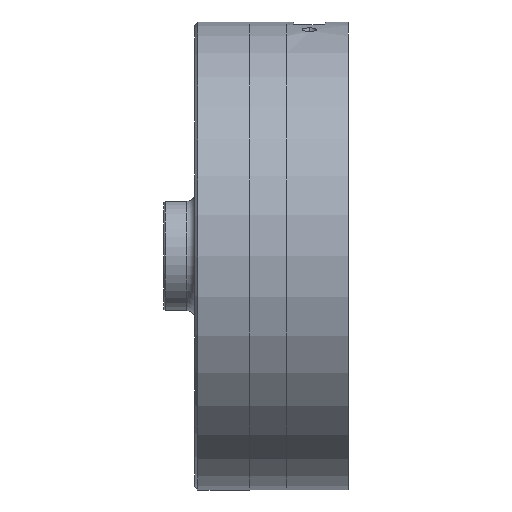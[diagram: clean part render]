
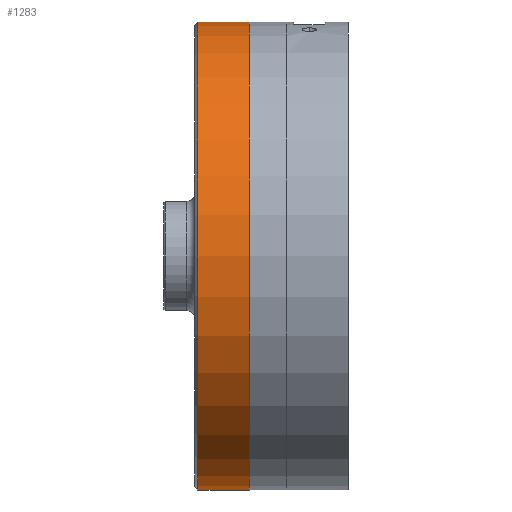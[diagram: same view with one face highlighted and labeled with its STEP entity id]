
A CAD part, left-side view. The second image highlights one B-rep face of the part: STEP entity #1283.
In plain terms, the highlighted cylindrical face has radius 38.1 mm (diameter 76.2 mm), a partial arc.
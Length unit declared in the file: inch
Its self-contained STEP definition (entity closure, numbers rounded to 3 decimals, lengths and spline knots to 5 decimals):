
#1147 = VERTEX_POINT ( 'NONE', #4810 ) ;
#1149 = EDGE_CURVE ( 'NONE', #1170, #1147, #4808, .T. ) ;
#1170 = VERTEX_POINT ( 'NONE', #4897 ) ;
#1171 = VERTEX_POINT ( 'NONE', #4896 ) ;
#1173 = EDGE_CURVE ( 'NONE', #1171, #1174, #4895, .T. ) ;
#1174 = VERTEX_POINT ( 'NONE', #4891 ) ;
#1260 = ORIENTED_EDGE ( 'NONE', *, *, #1173, .F. ) ;
#1261 = ORIENTED_EDGE ( 'NONE', *, *, #1262, .T. ) ;
#1262 = EDGE_CURVE ( 'NONE', #1171, #1170, #5231, .T. ) ;
#1263 = ORIENTED_EDGE ( 'NONE', *, *, #1149, .T. ) ;
#1264 = ORIENTED_EDGE ( 'NONE', *, *, #1282, .T. ) ;
#1282 = EDGE_CURVE ( 'NONE', #1147, #1174, #5320, .T. ) ;
#1283 = ADVANCED_FACE ( 'NONE', ( #5314 ), #5296, .T. ) ;
#1284 = EDGE_LOOP ( 'NONE', ( #1260, #1261, #1263, #1264 ) ) ;
#4805 = DIRECTION ( 'NONE',  ( 0., 1., 0. ) ) ;
#4806 = VECTOR ( 'NONE', #4805, 39.37008 ) ;
#4807 = CARTESIAN_POINT ( 'NONE',  ( -0.74144, 1.38927, 2.19037 ) ) ;
#4808 = LINE ( 'NONE', #4807, #4806 ) ;
#4810 = CARTESIAN_POINT ( 'NONE',  ( -0.74144, 0.32539, 2.19037 ) ) ;
#4891 = CARTESIAN_POINT ( 'NONE',  ( -0.74144, 0.32539, -0.80963 ) ) ;
#4892 = DIRECTION ( 'NONE',  ( 0., 1., 0. ) ) ;
#4893 = VECTOR ( 'NONE', #4892, 39.37008 ) ;
#4894 = CARTESIAN_POINT ( 'NONE',  ( -0.74144, 1.38927, -0.80963 ) ) ;
#4895 = LINE ( 'NONE', #4894, #4893 ) ;
#4896 = CARTESIAN_POINT ( 'NONE',  ( -0.74144, -0.00461, -0.80963 ) ) ;
#4897 = CARTESIAN_POINT ( 'NONE',  ( -0.74144, -0.00461, 2.19037 ) ) ;
#5227 = DIRECTION ( 'NONE',  ( 0., 0., 1. ) ) ;
#5228 = DIRECTION ( 'NONE',  ( 0., 1., 0. ) ) ;
#5229 = CARTESIAN_POINT ( 'NONE',  ( -0.74144, -0.00461, 0.69037 ) ) ;
#5230 = AXIS2_PLACEMENT_3D ( 'NONE', #5229, #5228, #5227 ) ;
#5231 = CIRCLE ( 'NONE', #5230, 1.5 ) ;
#5296 = CYLINDRICAL_SURFACE ( 'NONE', #5346, 1.5 ) ;
#5314 = FACE_OUTER_BOUND ( 'NONE', #1284, .T. ) ;
#5315 = DIRECTION ( 'NONE',  ( 0., 0., -1. ) ) ;
#5316 = DIRECTION ( 'NONE',  ( 0., -1., 0. ) ) ;
#5317 = CARTESIAN_POINT ( 'NONE',  ( -0.74144, 0.32539, 0.69037 ) ) ;
#5318 = AXIS2_PLACEMENT_3D ( 'NONE', #5317, #5316, #5315 ) ;
#5320 = CIRCLE ( 'NONE', #5318, 1.5 ) ;
#5343 = DIRECTION ( 'NONE',  ( 0., 0., 1. ) ) ;
#5344 = DIRECTION ( 'NONE',  ( 0., 1., 0. ) ) ;
#5345 = CARTESIAN_POINT ( 'NONE',  ( -0.74144, 1.38927, 0.69037 ) ) ;
#5346 = AXIS2_PLACEMENT_3D ( 'NONE', #5345, #5344, #5343 ) ;
